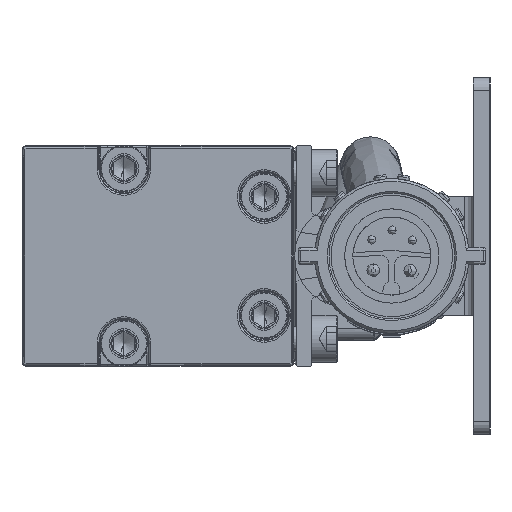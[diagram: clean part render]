
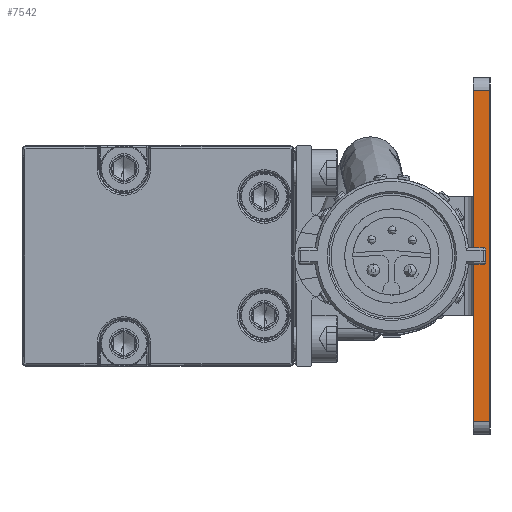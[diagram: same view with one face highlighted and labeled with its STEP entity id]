
A CAD part, left-side view. The second image highlights one B-rep face of the part: STEP entity #7542.
In plain terms, the highlighted planar face has unit normal (-1, 0, 0).
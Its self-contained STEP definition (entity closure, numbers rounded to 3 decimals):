
#1831 = ORIENTED_EDGE ( 'NONE', *, *, #31661, .F. ) ;
#2728 = PLANE ( 'NONE',  #72992 ) ;
#5864 = CARTESIAN_POINT ( 'NONE',  ( -399., 0., 19.5 ) ) ;
#7542 = ADVANCED_FACE ( 'NONE', ( #43759 ), #2728, .F. ) ;
#11370 = EDGE_CURVE ( 'NONE', #21111, #13629, #73266, .T. ) ;
#11518 = CARTESIAN_POINT ( 'NONE',  ( -399., 2., -19.5 ) ) ;
#12219 = EDGE_CURVE ( 'NONE', #60214, #23422, #27429, .T. ) ;
#12520 = DIRECTION ( 'NONE',  ( 0., 0., -1. ) ) ;
#13052 = ORIENTED_EDGE ( 'NONE', *, *, #12219, .T. ) ;
#13629 = VERTEX_POINT ( 'NONE', #30096 ) ;
#16941 = ORIENTED_EDGE ( 'NONE', *, *, #63777, .T. ) ;
#21111 = VERTEX_POINT ( 'NONE', #54317 ) ;
#22242 = CARTESIAN_POINT ( 'NONE',  ( -399., 0., 19.5 ) ) ;
#22844 = LINE ( 'NONE', #62499, #47638 ) ;
#23422 = VERTEX_POINT ( 'NONE', #43306 ) ;
#25420 = DIRECTION ( 'NONE',  ( 1., 0., 0. ) ) ;
#27429 = LINE ( 'NONE', #28550, #73564 ) ;
#28550 = CARTESIAN_POINT ( 'NONE',  ( -399., 0., 19.5 ) ) ;
#29318 = LINE ( 'NONE', #5864, #48695 ) ;
#30096 = CARTESIAN_POINT ( 'NONE',  ( -399., 0., -19.5 ) ) ;
#31661 = EDGE_CURVE ( 'NONE', #60214, #13629, #29318, .T. ) ;
#37034 = DIRECTION ( 'NONE',  ( 0., 0., -1. ) ) ;
#41280 = ORIENTED_EDGE ( 'NONE', *, *, #11370, .T. ) ;
#43306 = CARTESIAN_POINT ( 'NONE',  ( -399., 2., 19.5 ) ) ;
#43759 = FACE_OUTER_BOUND ( 'NONE', #63248, .T. ) ;
#47638 = VECTOR ( 'NONE', #62874, 1000. ) ;
#47878 = CARTESIAN_POINT ( 'NONE',  ( -399., 1., 0. ) ) ;
#48695 = VECTOR ( 'NONE', #12520, 1000. ) ;
#54317 = CARTESIAN_POINT ( 'NONE',  ( -399., 2., -19.5 ) ) ;
#60214 = VERTEX_POINT ( 'NONE', #22242 ) ;
#62499 = CARTESIAN_POINT ( 'NONE',  ( -399., 2., 19.5 ) ) ;
#62585 = DIRECTION ( 'NONE',  ( 0., 1., 0. ) ) ;
#62874 = DIRECTION ( 'NONE',  ( 0., 0., -1. ) ) ;
#63248 = EDGE_LOOP ( 'NONE', ( #13052, #16941, #41280, #1831 ) ) ;
#63777 = EDGE_CURVE ( 'NONE', #23422, #21111, #22844, .T. ) ;
#65311 = VECTOR ( 'NONE', #67268, 1000. ) ;
#67268 = DIRECTION ( 'NONE',  ( 0., -1., 0. ) ) ;
#72992 = AXIS2_PLACEMENT_3D ( 'NONE', #47878, #25420, #37034 ) ;
#73266 = LINE ( 'NONE', #11518, #65311 ) ;
#73564 = VECTOR ( 'NONE', #62585, 1000. ) ;
